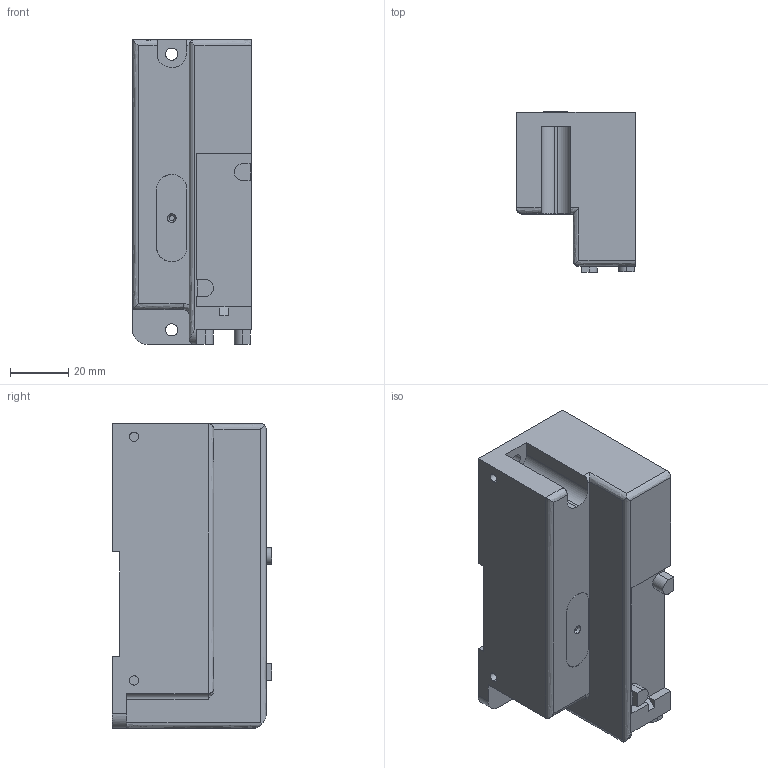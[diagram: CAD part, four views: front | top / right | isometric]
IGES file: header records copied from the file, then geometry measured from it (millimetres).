
Start section: ------------------------------------------------------------------------
Global section: file name: D:\ICADMX\tmp\trans3d_spg\CVICAD02.4564.F15ZX-LK_16515.igs; native system: spGate; preprocessor: ver12.6.6; author: Unknown; organization: Unknown; date: 210712.184723; units: millimetre
Bounding box: 41 x 55.1 x 105 mm (x, y, z)
Volume: 168922 mm3; surface area: 25577.8 mm2
Topology: 2 solids, 2 shells, 201 faces, 518 edges, 343 vertices
Faces by surface type: bspline 201
